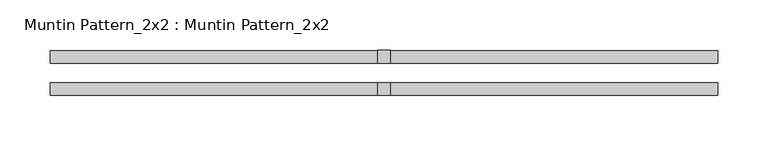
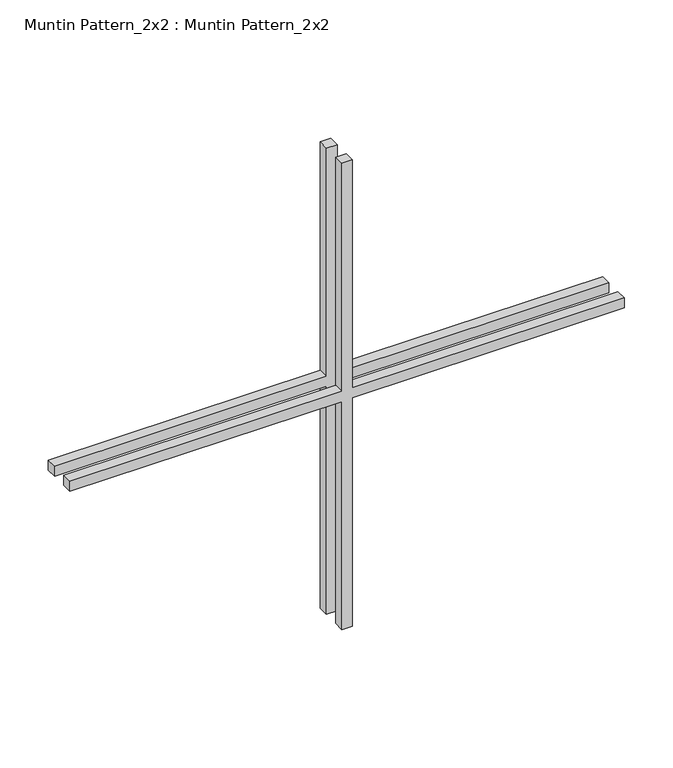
"""IFC4 building model written with IfcOpenShell, lengths in millimetres: proxy geometry, Muntin Pattern_2x2 : Muntin Pattern_2x2."""

from ifc_helpers import new_model, si_unit, frame, origin, place, context, project, spatial, polyline, outline, extrude, source, transform, mapped, element, save


def muntin_pattern_2x2_muntin_pattern_2x2_a7549ec0(model_context):
    return source(origin(), model_context, "Body", "SweptSolid", [
        extrude(outline(polyline([(300.0375, -6.35), (300.0375, -330.2), (287.3375, -330.2), (287.3375, -6.35), (0.0, -6.35), (0.0, 6.35), (287.3375, 6.35), (287.3375, 330.2), (300.0375, 330.2), (300.0375, 6.35), (587.375, 6.35), (587.375, -6.35), (300.0375, -6.35)])), frame((0.0, 9.525, 0.0), z_axis=(0.0, 1.0, 0.0), x_axis=(0.0, 0.0, 1.0)), (0.0, 0.0, 1.0), 12.7),
        extrude(outline(polyline([(300.0375, -6.35), (300.0375, -330.2), (287.3375, -330.2), (287.3375, -6.35), (0.0, -6.35), (0.0, 6.35), (287.3375, 6.35), (287.3375, 330.2), (300.0375, 330.2), (300.0375, 6.35), (587.375, 6.35), (587.375, -6.35), (300.0375, -6.35)])), frame((0.0, -22.225, 0.0), z_axis=(0.0, 1.0, 0.0), x_axis=(0.0, 0.0, 1.0)), (0.0, 0.0, 1.0), 12.7),
    ])


if __name__ == "__main__":
    model = new_model("IFC4")
    model_context = context("Model", 3, world=origin())
    ifc_project = project(units=[si_unit("LENGTHUNIT", "METRE", prefix="MILLI")], contexts=[model_context])
    site = spatial("IfcSite", under=ifc_project)
    building = spatial("IfcBuilding", under=site)
    placement = place(None, origin())
    muntin_pattern_2x2_muntin_pattern_2x2_shape = muntin_pattern_2x2_muntin_pattern_2x2_a7549ec0(model_context)
    element("IfcBuildingElementProxy", 1, Name="Muntin Pattern_2x2 : Muntin Pattern_2x2", ObjectType="Muntin Pattern_2x2 : Muntin Pattern_2x2", at=placement, inside=building, context=model_context, shape_type="MappedRepresentation", body=[
        mapped(muntin_pattern_2x2_muntin_pattern_2x2_shape, transform((0.0, 0.0, 0.0), x_axis=(1.0, 0.0, 0.0), y_axis=(0.0, 1.0, 0.0), z_axis=(0.0, 0.0, 1.0))),
    ])
    save(model, "model.ifc")
